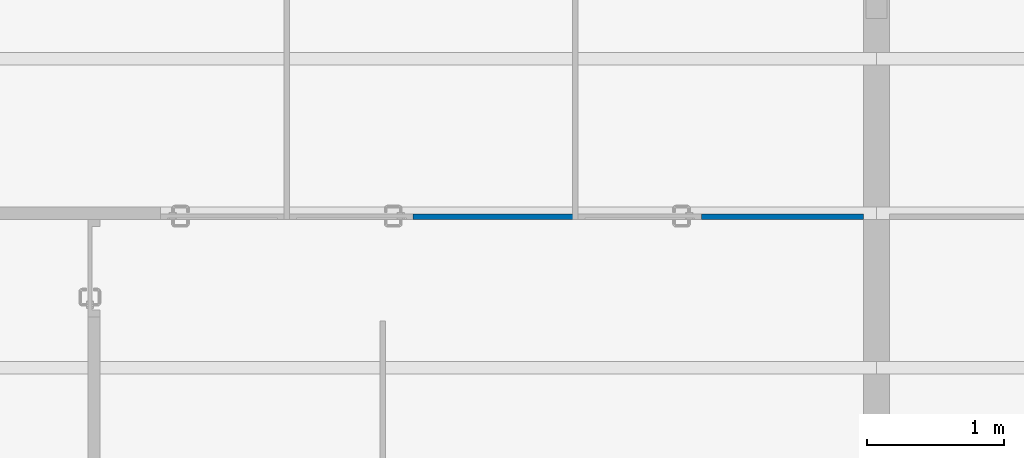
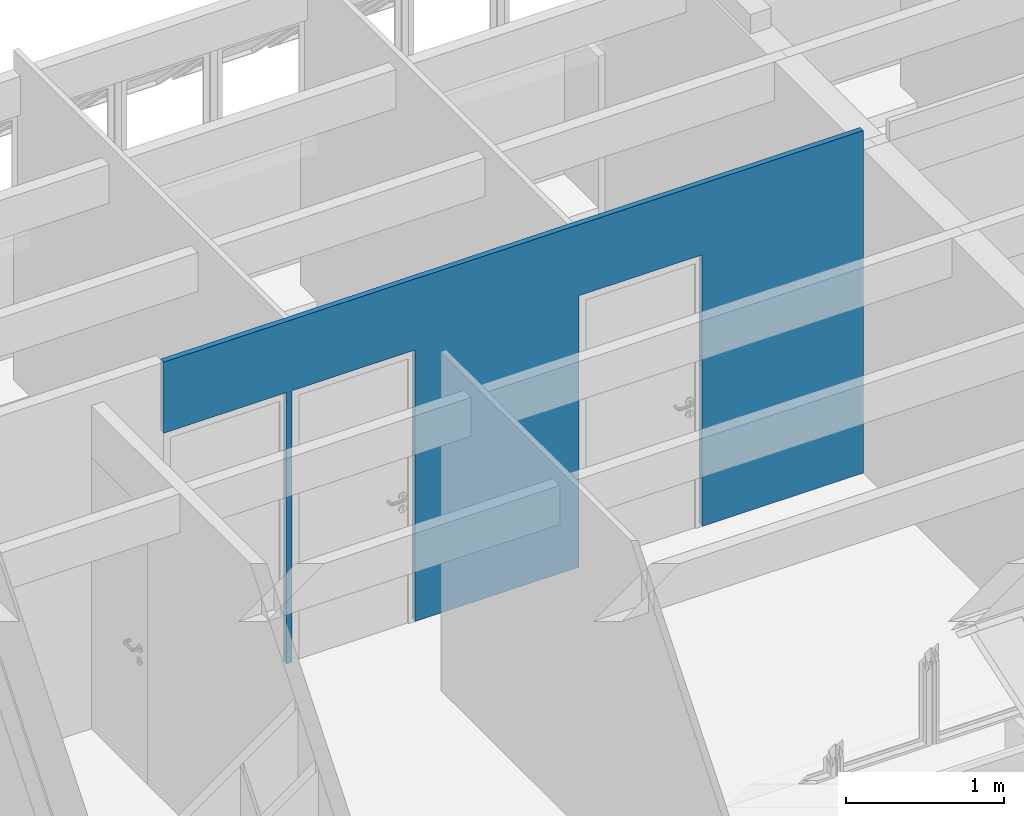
# One storey, part 20 of 38: 1 wall, 3 openings.
"""IFC2X3 building model written with IfcOpenShell, lengths in millimetres."""

from ifc_helpers import new_model, entity, si_unit, converted_unit, derived_unit, money_unit, direction, frame, origin_with_axes, origin_2d_with_axis, place, context, subcontext, project, spatial, polyline, rectangle, outline, extrude, material, layer, layer_set, layer_usage, type_object, element, save


model = new_model("IFC2X3")

# Units and contexts
model_context = context("Model", 3, precision=0.01, world=origin_with_axes(), true_north=direction((0.0, 1.0)))
body_context = subcontext(model_context, "Body", "Model", "MODEL_VIEW")
ifc_project = project(units=[si_unit("LENGTHUNIT", "METRE", prefix="MILLI"), si_unit("AREAUNIT", "SQUARE_METRE"), si_unit("VOLUMEUNIT", "CUBIC_METRE"), converted_unit("PLANEANGLEUNIT", "DEGREE", entity("IfcPlaneAngleMeasure", 0.0174532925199), si_unit("PLANEANGLEUNIT", "RADIAN"), dimensions=[0, 0, 0, 0, 0, 0, 0]), money_unit("USD"), converted_unit("TIMEUNIT", "Year", entity("IfcTimeMeasure", 31556926.0), si_unit("TIMEUNIT", "SECOND"), dimensions=[0, 0, 1, 0, 0, 0, 0]), si_unit("MASSUNIT", "GRAM", prefix="KILO"), si_unit("THERMODYNAMICTEMPERATUREUNIT", "DEGREE_CELSIUS"), si_unit("LUMINOUSINTENSITYUNIT", "LUMEN"), si_unit("ENERGYUNIT", "JOULE", prefix="MEGA"), derived_unit("THERMALCONDUCTANCEUNIT", [(si_unit("POWERUNIT", "WATT"), 1), (si_unit("LENGTHUNIT", "METRE"), -1), (si_unit("THERMODYNAMICTEMPERATUREUNIT", "KELVIN"), -1)]), derived_unit("SPECIFICHEATCAPACITYUNIT", [(si_unit("ENERGYUNIT", "JOULE"), 1), (si_unit("MASSUNIT", "GRAM", prefix="KILO"), -1), (si_unit("THERMODYNAMICTEMPERATUREUNIT", "KELVIN"), -1)]), derived_unit("MASSDENSITYUNIT", [(si_unit("MASSUNIT", "GRAM", prefix="KILO"), 1), (si_unit("VOLUMEUNIT", "CUBIC_METRE"), -1)])], contexts=[model_context])

# Site, building, storey
site_placement = place(None, origin_with_axes())
site = spatial("IfcSite", under=ifc_project, at=site_placement, Name="Local", CompositionType="ELEMENT")
building_placement = place(site_placement, origin_with_axes())
building = spatial("IfcBuilding", under=site, at=building_placement, Name="Construção", CompositionType="ELEMENT")
storey_placement = place(building_placement, frame((0.0, 0.0, 2650.0), z_axis=(0.0, 0.0, 1.0), x_axis=(1.0, 0.0, 0.0)))
storey = spatial("IfcBuildingStorey", under=building, at=storey_placement, Name="Segundo Pavimento", CompositionType="ELEMENT", Elevation=2650.0)

# Wall, openings
ifc_material = material(Name="GENÉRICO - VEDAÇÃO EXTERNA")
ifc_layer = layer(ifc_material, 40.0, ventilated="UNKNOWN")
ifc_layer_set = layer_set([ifc_layer], Name="GENÉRICO - VEDAÇÃO EXTERNA 40")
ifc_layer_usage = layer_usage(ifc_layer_set, "AXIS2", "POSITIVE", 0.0)
wall_type = type_object("IfcWallType", Name="GENÉRICO - VEDAÇÃO EXTERNA 40", PredefinedType="NOTDEFINED")
wall_placement = place(storey_placement, frame((2170.0, 22394.7804333, 0.0), z_axis=(0.0, 0.0, 1.0), x_axis=(0.99999999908, 4.28841203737e-05, 0.0)))
wall = element("IfcWallStandardCase", 1, at=wall_placement, inside=storey, type_object=wall_type, material=ifc_layer_usage, Name="APTO7-PAREDE-006", context=body_context, shape_type="SweptSolid", body=[
    extrude(outline(polyline([(0.0, 0.0), (5120.00000471, 0.0), (5120.00000471, 40.0), (0.000857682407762, 40.0), (0.0, 0.0)])), origin_with_axes(), (0.0, 0.0, 1.0), 2650.0),
])
opening_1_placement = place(wall_placement, frame((1390.00000471, 0.0, 0.0), z_axis=(0.0, 0.0, 1.0), x_axis=(1.0, 0.0, 0.0)))
element("IfcOpeningElement", 2, at=opening_1_placement, cuts=wall, Name="APTO7-PORTA-002", context=body_context, shape_type="SweptSolid", body=[
    extrude(rectangle(XDim=900.0, YDim=2100.0, at=origin_2d_with_axis()), frame((0.0, 40.0, 1050.0), z_axis=(0.0, 1.0, 0.0), x_axis=(-1.0, 0.0, 0.0)), (0.0, 0.0, -1.0), 120.0),
])
opening_2_placement = place(wall_placement, frame((450.000004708, 0.0, 0.0), z_axis=(0.0, 0.0, 1.0), x_axis=(1.0, 0.0, 0.0)))
element("IfcOpeningElement", 3, at=opening_2_placement, cuts=wall, Name="APTO7-PORTA-001", context=body_context, shape_type="SweptSolid", body=[
    extrude(rectangle(XDim=900.0, YDim=2100.0, at=origin_2d_with_axis()), frame((0.0, 40.0, 1050.0), z_axis=(0.0, -1.0, 0.0), x_axis=(1.0, 0.0, 0.0)), (0.0, 0.0, 1.0), 120.0),
])
opening_3_placement = place(wall_placement, frame((3490.00000471, 0.0, 0.0), z_axis=(0.0, 0.0, 1.0), x_axis=(1.0, 0.0, 0.0)))
element("IfcOpeningElement", 4, at=opening_3_placement, cuts=wall, Name="APTO7-PORTA-000", context=body_context, shape_type="SweptSolid", body=[
    extrude(rectangle(XDim=900.0, YDim=2100.0, at=origin_2d_with_axis()), frame((0.0, 40.0, 1050.0), z_axis=(0.0, 1.0, 0.0), x_axis=(-1.0, 0.0, 0.0)), (0.0, 0.0, -1.0), 120.0),
])

save(model, "model.ifc")
